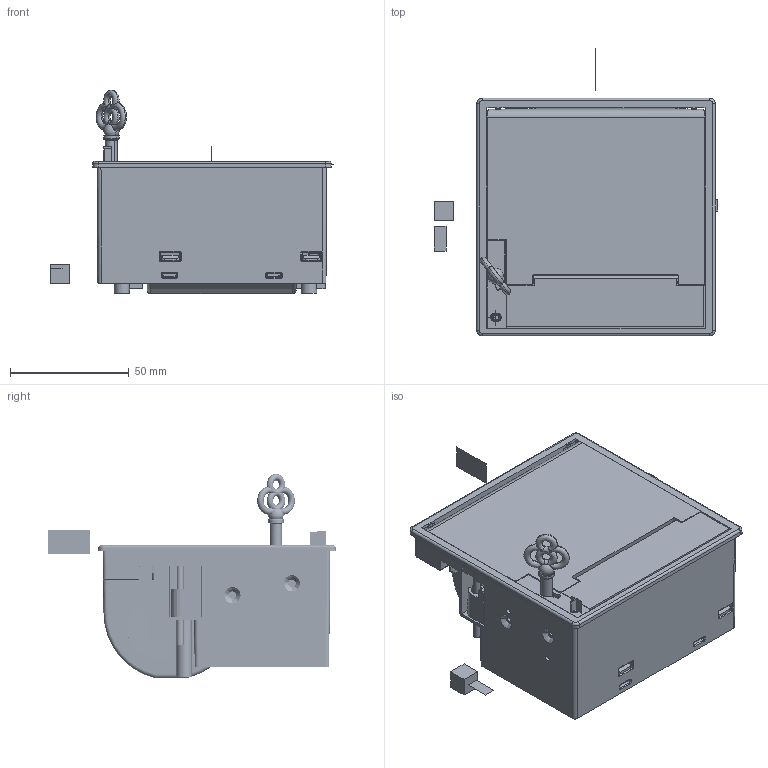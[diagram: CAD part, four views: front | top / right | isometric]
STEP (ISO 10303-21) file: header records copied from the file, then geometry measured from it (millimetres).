
FILE_DESCRIPTION((''),'2;1');
FILE_NAME('MS-FPT201K-1000_2017022201_ASM','2017-02-22T',('Administrator'),(''),'PRO/ENGINEER BY PARAMETRIC TECHNOLOGY CORPORATION, 2013430','PRO/ENGINEER BY PARAMETRIC TECHNOLOGY CORPORATION, 2013430','');
FILE_SCHEMA(('AUTOMOTIVE_DESIGN_CC2 { 1 2 10303 214 -1 1 5 2 }'));
Products named in the file (26): QJ-01_39; QJ-06_4; QJ-02_8; QJ-03_12; 3001118316_3D-A_SOLID__2_6; 3001118722_3D-B_SOLID__2_1; ASSEM1_ASM_2_ASM_1_ASM; CAPD245_ASM_1_ASM; MANIFOLD_SOLID_BREP_110936; MANIFOLD_SOLID_BREP_111024; MANIFOLD_SOLID_BREP_111112; MS-FPT201_VER01_4_ASM; PM3X35_SHIZI-1_8; QJ-05_4; MS-FPT201K-YS-SJ-001-A_76; MS-FPT201K-YS-ZU-005_ASM_3_ASM; MS-FPT201-YAOSHI-001-A_37; MS-FPT201-YS-BJ-003-B_26; SO-M3-L-5-2_7; SO-M3-L-5_5; MS-FPT201K-YS-ZU-006_ASM_9_ASM; MS-FPT-201K-YS-LH-0_3_19; BM3X5-DAIJIE_5; MS-FPT201-YS-BJ-007-A_30; MS-FPT201K-1000_ASM_212_ASM; MS-FPT201K-1000_2017022201_ASM
Assembly tree (28 placements, depth 5):
  MS-FPT201K-1000_2017022201_ASM
    MS-FPT201K-1000_ASM_212_ASM
      QJ-01_39
      QJ-06_4
      QJ-02_8
      QJ-03_12
      CAPD245_ASM_1_ASM
        ASSEM1_ASM_2_ASM_1_ASM
          3001118316_3D-A_SOLID__2_6
          3001118722_3D-B_SOLID__2_1
      MS-FPT201_VER01_4_ASM
        MANIFOLD_SOLID_BREP_110936
        MANIFOLD_SOLID_BREP_111024
        MANIFOLD_SOLID_BREP_111112
      PM3X35_SHIZI-1_8  x2
      QJ-05_4  x2
      MS-FPT201K-YS-ZU-005_ASM_3_ASM
        MS-FPT201K-YS-SJ-001-A_76
      MS-FPT201-YAOSHI-001-A_37
      MS-FPT201K-YS-ZU-006_ASM_9_ASM
        MS-FPT201-YS-BJ-003-B_26
        SO-M3-L-5-2_7
        SO-M3-L-5_5
      MS-FPT-201K-YS-LH-0_3_19
      BM3X5-DAIJIE_5  x2
      MS-FPT201-YS-BJ-007-A_30
Bounding box: 119.21 x 120.88 x 85.73 mm (x, y, z)
Volume: 178190.7 mm3; surface area: 142143.7 mm2
Topology: 22 solids, 43 shells, 3432 faces, 9414 edges, 6050 vertices
Faces by surface type: plane 1687, cylinder 1166, bspline 271, torus 157, cone 89, sphere 62
Entity records: 138192 total; most frequent: CARTESIAN_POINT 44344, ORIENTED_EDGE 18049, DIRECTION 16561, EDGE_CURVE 9061, VERTEX_POINT 5856, AXIS2_PLACEMENT_3D 5585, VECTOR 5391, LINE 5391
